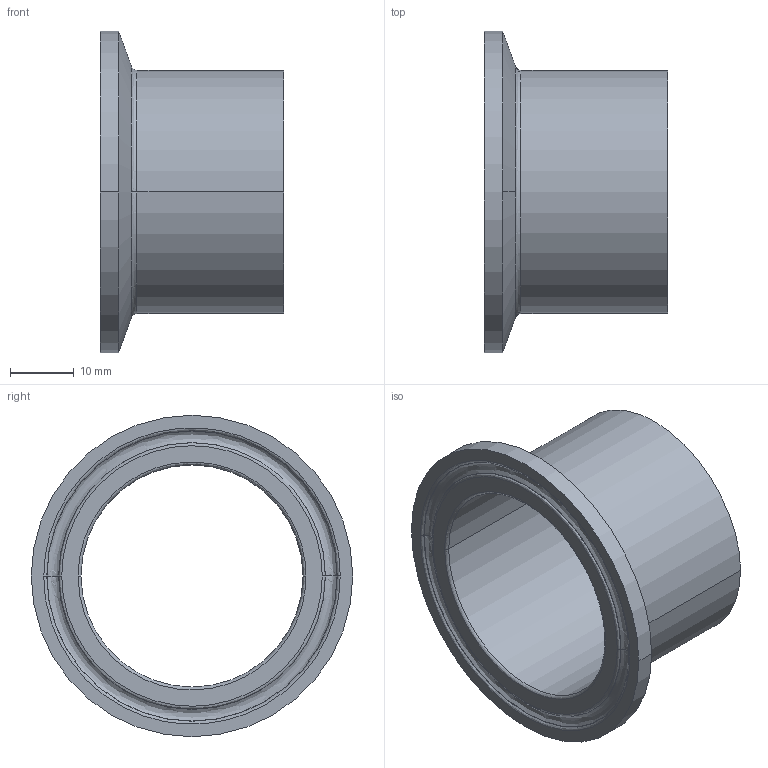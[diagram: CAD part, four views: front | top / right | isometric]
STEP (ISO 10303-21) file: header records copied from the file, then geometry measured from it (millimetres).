
FILE_DESCRIPTION (( 'STEP AP214' ), '1' );
FILE_NAME ('TEG14BM76L1.5.STEP', '2016-05-23T04:06:57', ( 'eran' ), ( '' ), 'SwSTEP 2.0', 'SolidWorks 2016', '' );
FILE_SCHEMA (( 'AUTOMOTIVE_DESIGN' ));
Length unit declared in the file: millimetre
Products named in the file (1): TEG14BM76L1.5
Bounding box: 28.7 x 50.39 x 50.39 mm (x, y, z)
Volume: 8594.9 mm3; surface area: 8595.3 mm2
Topology: 1 solids, 1 shells, 25 faces, 62 edges, 40 vertices
Faces by surface type: bspline 10, cylinder 6, cone 6, plane 3
Entity records: 1427 total; most frequent: CARTESIAN_POINT 802, DIRECTION 132, ORIENTED_EDGE 124, EDGE_CURVE 62, AXIS2_PLACEMENT_3D 60, CIRCLE 44, VERTEX_POINT 40, EDGE_LOOP 28
